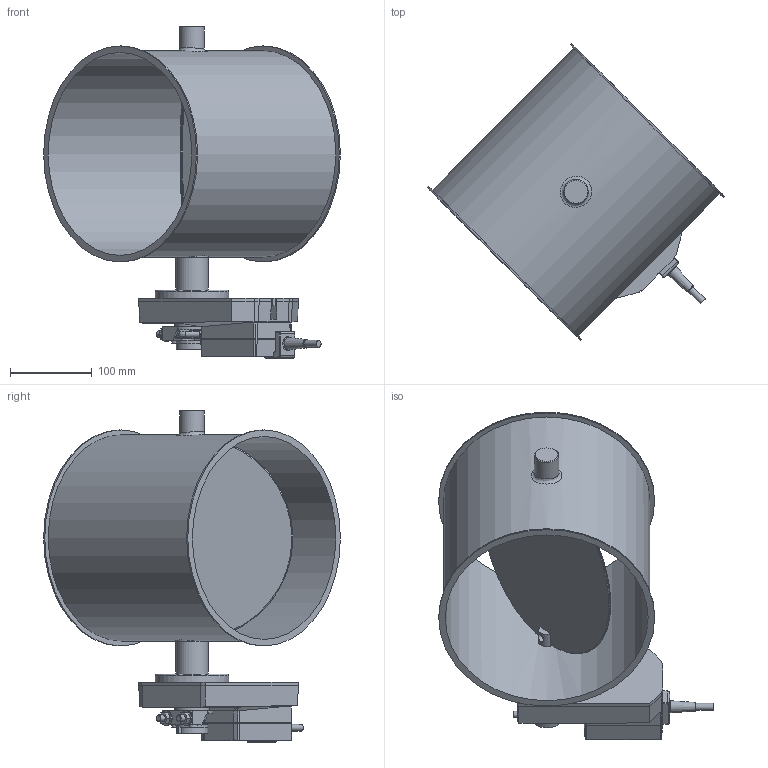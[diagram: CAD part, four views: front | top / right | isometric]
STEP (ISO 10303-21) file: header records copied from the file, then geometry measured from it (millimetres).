
FILE_DESCRIPTION((''),'2;1');
FILE_NAME('U:\Wolfgang\Marcel-3D\fertig\Kapitel 8\2521215.stp','2012-01-13T11:13:59',('iwienholt'),(''),'Autodesk Inventor 2010','Autodesk Inventor 2010','');
FILE_SCHEMA(('AUTOMOTIVE_DESIGN { 1 0 10303 214 1 1 1 1 }'));
Length unit declared in the file: millimetre
Products named in the file (8): 2521215; Bolzen D20; Scheibe250b; 2521211-1; GM24A-Antrieb; Distanzstück D; GM24A-GM_A_standard_MF_MP_1cable; BuchseD20 90-50
Assembly tree (8 placements, depth 3):
  2521215
    Bolzen D20  x2
    Scheibe250b
    2521211-1
    GM24A-Antrieb
      Distanzstück D
      GM24A-GM_A_standard_MF_MP_1cable
      BuchseD20 90-50
Bounding box: 364.17 x 364.15 x 407.4 mm (x, y, z)
Volume: 1557830.7 mm3; surface area: 689245.3 mm2
Topology: 7 solids, 7 shells, 411 faces, 1058 edges, 689 vertices
Faces by surface type: plane 249, cylinder 105, bspline 42, cone 14, torus 1
Full cylindrical faces by diameter (mm): 3.6 x2, 4.2 x4, 5.1 x1, 6 x4, 7.25 x4, 8 x4, 8.4 x1, 9 x4, 9.742 x1, 10 x6, 10.083 x1, 18.2 x2, 20 x4, 20.5 x1, 27.01 x1, 30 x2, 30.042 x1, 34 x1, 34.5 x1, 40 x2, 43 x3, 90 x1, 249 x2, 253 x1, 265 x2
Entity records: 12984 total; most frequent: CARTESIAN_POINT 3099, ORIENTED_EDGE 1880, DIRECTION 1856, EDGE_CURVE 940, VERTEX_POINT 651, AXIS2_PLACEMENT_3D 625, VECTOR 606, LINE 606
